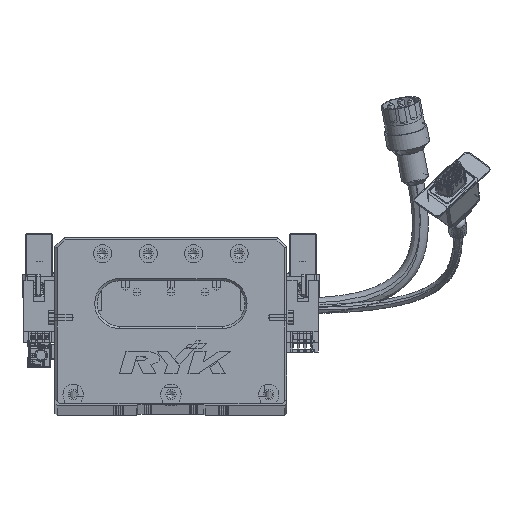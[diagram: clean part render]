
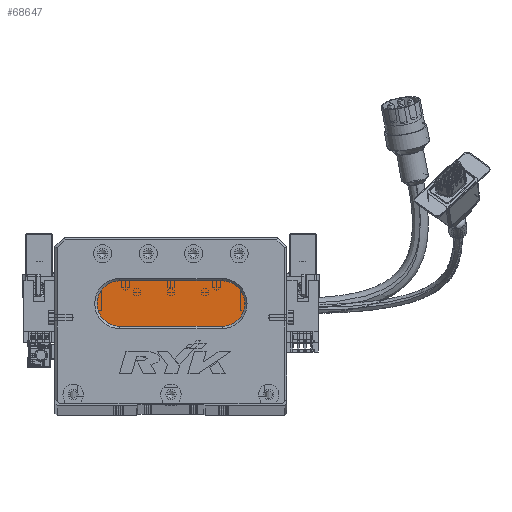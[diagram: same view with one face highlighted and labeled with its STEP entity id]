
A CAD part, top view. The second image highlights one B-rep face of the part: STEP entity #68647.
In plain terms, the highlighted planar face has unit normal (0, 0, 1) as drawn and (0, 0, -1) by its records, which use the part's own axes.
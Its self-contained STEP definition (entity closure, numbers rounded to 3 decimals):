
#444 = DIRECTION ( 'NONE',  ( -1., 0., 0. ) ) ;
#487 = DIRECTION ( 'NONE',  ( -1., 0., 0. ) ) ;
#1943 = DIRECTION ( 'NONE',  ( 0., 0., -1. ) ) ;
#4217 = AXIS2_PLACEMENT_3D ( 'NONE', #78012, #58031, #444 ) ;
#5905 = CARTESIAN_POINT ( 'NONE',  ( 28.5, 44., 13. ) ) ;
#8235 = AXIS2_PLACEMENT_3D ( 'NONE', #39064, #52080, #487 ) ;
#12740 = DIRECTION ( 'NONE',  ( -1., 0., 0. ) ) ;
#16169 = CIRCLE ( 'NONE', #76773, 10. ) ;
#20624 = FACE_OUTER_BOUND ( 'NONE', #30828, .T. ) ;
#22566 = VERTEX_POINT ( 'NONE', #54181 ) ;
#22738 = DIRECTION ( 'NONE',  ( -1., 0., 0. ) ) ;
#26989 = VECTOR ( 'NONE', #22738, 1000. ) ;
#27078 = DIRECTION ( 'NONE',  ( 1., 0., 0. ) ) ;
#27730 = ORIENTED_EDGE ( 'NONE', *, *, #58204, .T. ) ;
#30828 = EDGE_LOOP ( 'NONE', ( #54157, #83851, #27730, #82642, #75058 ) ) ;
#33889 = VERTEX_POINT ( 'NONE', #77723 ) ;
#35892 = VERTEX_POINT ( 'NONE', #63677 ) ;
#37689 = DIRECTION ( 'NONE',  ( 0., 0., -1. ) ) ;
#39064 = CARTESIAN_POINT ( 'NONE',  ( 73.5, 44., 13. ) ) ;
#47789 = EDGE_CURVE ( 'NONE', #33889, #35892, #60319, .T. ) ;
#49720 = VERTEX_POINT ( 'NONE', #71333 ) ;
#50612 = EDGE_CURVE ( 'NONE', #49720, #22566, #73789, .T. ) ;
#52080 = DIRECTION ( 'NONE',  ( 0., 0., -1. ) ) ;
#54039 = LINE ( 'NONE', #59985, #64280 ) ;
#54157 = ORIENTED_EDGE ( 'NONE', *, *, #56482, .T. ) ;
#54181 = CARTESIAN_POINT ( 'NONE',  ( 28.5, 34., 13. ) ) ;
#56482 = EDGE_CURVE ( 'NONE', #72727, #49720, #74971, .T. ) ;
#57945 = CARTESIAN_POINT ( 'NONE',  ( 73.5, 54., 13. ) ) ;
#58031 = DIRECTION ( 'NONE',  ( 0., 0., -1. ) ) ;
#58204 = EDGE_CURVE ( 'NONE', #22566, #33889, #16169, .T. ) ;
#58656 = PLANE ( 'NONE',  #8235 ) ;
#59985 = CARTESIAN_POINT ( 'NONE',  ( 73.5, 54., 13. ) ) ;
#60319 = CIRCLE ( 'NONE', #4217, 10. ) ;
#63677 = CARTESIAN_POINT ( 'NONE',  ( 28.5, 54., 13. ) ) ;
#64280 = VECTOR ( 'NONE', #27078, 1000. ) ;
#67324 = CARTESIAN_POINT ( 'NONE',  ( 73.5, 34., 13. ) ) ;
#68647 = ADVANCED_FACE ( 'NONE', ( #20624 ), #58656, .T. ) ;
#71333 = CARTESIAN_POINT ( 'NONE',  ( 73.5, 34., 13. ) ) ;
#71529 = EDGE_CURVE ( 'NONE', #35892, #72727, #54039, .T. ) ;
#72727 = VERTEX_POINT ( 'NONE', #57945 ) ;
#73498 = CARTESIAN_POINT ( 'NONE',  ( 73.5, 44., 13. ) ) ;
#73789 = LINE ( 'NONE', #67324, #26989 ) ;
#74063 = DIRECTION ( 'NONE',  ( -1., 0., 0. ) ) ;
#74971 = CIRCLE ( 'NONE', #82142, 10. ) ;
#75058 = ORIENTED_EDGE ( 'NONE', *, *, #71529, .T. ) ;
#76773 = AXIS2_PLACEMENT_3D ( 'NONE', #5905, #37689, #12740 ) ;
#77723 = CARTESIAN_POINT ( 'NONE',  ( 18.5, 44., 13. ) ) ;
#78012 = CARTESIAN_POINT ( 'NONE',  ( 28.5, 44., 13. ) ) ;
#82142 = AXIS2_PLACEMENT_3D ( 'NONE', #73498, #1943, #74063 ) ;
#82642 = ORIENTED_EDGE ( 'NONE', *, *, #47789, .T. ) ;
#83851 = ORIENTED_EDGE ( 'NONE', *, *, #50612, .T. ) ;
